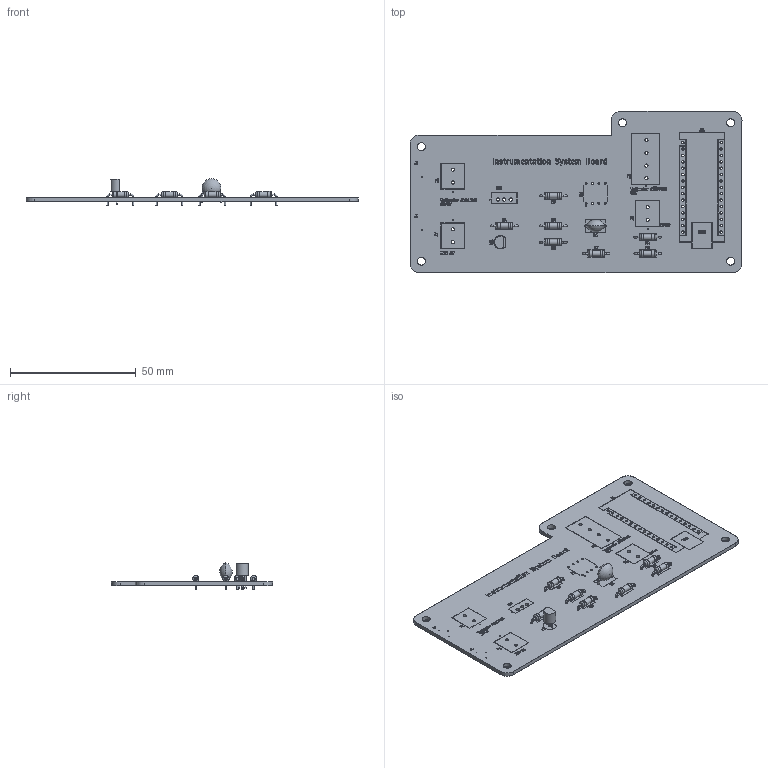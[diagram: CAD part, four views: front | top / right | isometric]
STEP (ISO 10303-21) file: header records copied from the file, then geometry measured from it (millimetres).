
FILE_DESCRIPTION(('KiCad electronic assembly'),'2;1');
FILE_NAME('PCB.step','2026-04-06T12:12:45',('Pcbnew'),('Kicad'), 'Open CASCADE STEP processor 7.9','KiCad to STEP converter','Unknown' );
FILE_SCHEMA(('AUTOMOTIVE_DESIGN { 1 0 10303 214 1 1 1 1 }'));
Length unit declared in the file: millimetre
Products named in the file (8): PCB 1; R_Axial_DIN0207_L6.3mm_D2.5mm_P10.16mm_Horizontal; TO-92_Inline; C_Disc_D7.5mm_W5.0mm_P7.50mm; PCB_silkscreen; PCB_soldermask; PCB_PCB
Assembly tree (13 placements, depth 2):
  PCB 1
    R_Axial_DIN0207_L6.3mm_D2.5mm_P10.16mm_Horizontal  x7
    TO-92_Inline
    C_Disc_D7.5mm_W5.0mm_P7.50mm
    PCB_silkscreen
    PCB_soldermask
    PCB_soldermask
    PCB_PCB
Bounding box: 132.05 x 64.05 x 10.6 mm (x, y, z)
Volume: 11873.1 mm3; surface area: 32296.5 mm2
Topology: 10 solids, 154 shells, 384 faces, 3716 edges, 3525 vertices
Faces by surface type: plane 214, cylinder 138, torus 28, revolution 2, sphere 2
Full cylindrical faces by diameter (mm): 0.3 x4, 0.6 x28, 0.7 x6, 0.75 x1, 0.78 x8, 0.8 x14, 1 x32, 1.3 x10, 1.33 x3, 2.25 x7, 2.5 x14, 3.2 x5
Entity records: 34785 total; most frequent: CARTESIAN_POINT 7457, DIRECTION 5084, ORIENTED_EDGE 3914, EDGE_CURVE 3552, VERTEX_POINT 3429, LINE 2602, VECTOR 2602, AXIS2_PLACEMENT_3D 1240
